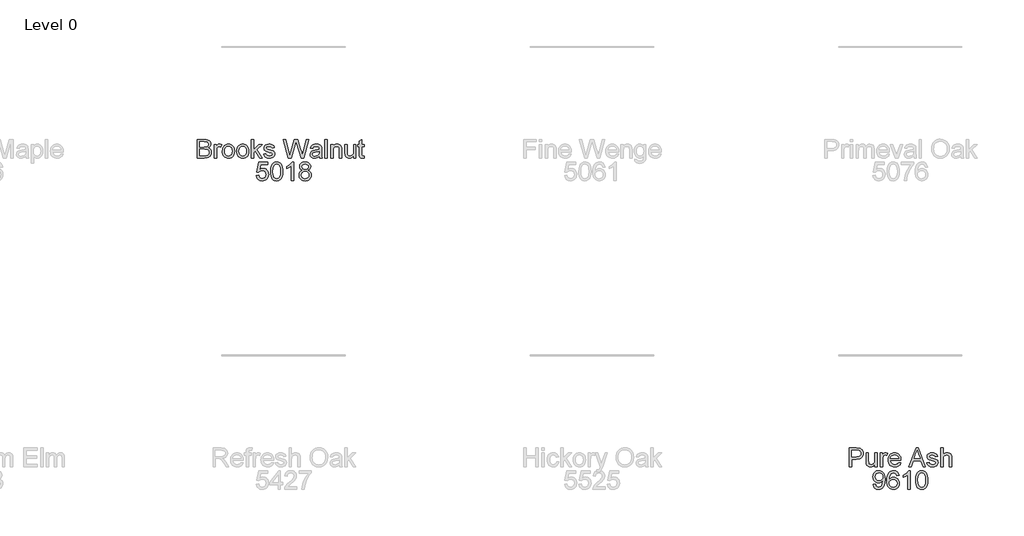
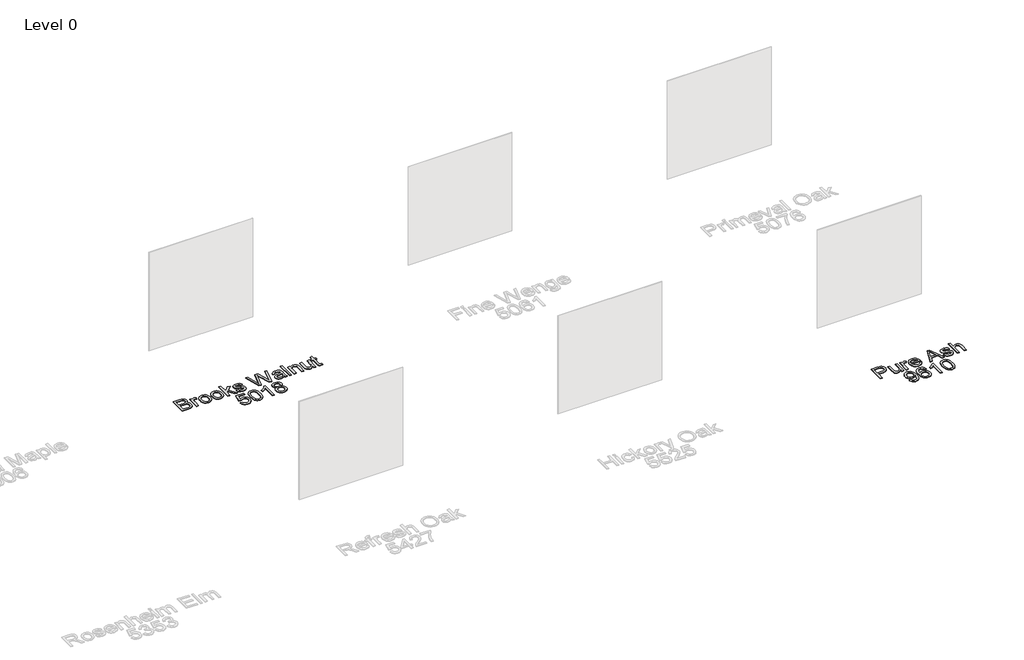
# One storey, part 10 of 16: 2 proxies.
"""IFC4 building model written with IfcOpenShell, lengths in millimetres."""

from ifc_helpers import new_model, si_unit, origin, origin_with_axes, place, context, project, spatial, polyline, outline, extrude, element, save

model = new_model("IFC4")

# Units and contexts
model_context = context("Model", 3, world=origin())
ifc_project = project(units=[si_unit("LENGTHUNIT", "METRE", prefix="MILLI")], contexts=[model_context])

# Site, building, storey
site = spatial("IfcSite", under=ifc_project)
building = spatial("IfcBuilding", under=site)
storey = spatial("IfcBuildingStorey", under=building, Name="Level 0", Elevation=0.0)

# Proxies
placement = place(None, origin())
element("IfcBuildingElementProxy", 1, Name="300mm Arial", ObjectType="300mm Arial", at=placement, inside=storey, context=model_context, shape_type="SweptSolid", body=[
    extrude(outline(polyline([(-849.1982492, -22012.860494), (-849.1982492, -21711.4915635), (-734.1983375, -21711.4915635), (-702.5696829, -21713.7080526), (-677.875604, -21720.3575196), (-658.9480754, -21731.6055116), (-644.6190717, -21747.6175755), (-635.5967657, -21766.4531336), (-632.5893304, -21786.1716086), (-635.1185191, -21804.317388), (-642.7060853, -21821.3779155), (-655.4072112, -21836.3047274), (-673.2770791, -21848.0493601), (-651.9307263, -21859.1961846), (-636.1577858, -21876.1555446), (-626.4181099, -21897.8054), (-623.1715513, -21923.0237108), (-625.3880404, -21944.0389697), (-632.0375074, -21963.5275184), (-641.9611242, -21980.1006023), (-654.0000625, -21992.3694669), (-668.7429335, -22001.253817), (-686.7783483, -22007.6733578), (-735.0812543, -22012.860494), (-849.1982492, -22012.860494)]), holes=[polyline([(-811.5271329, -21833.9226915), (-742.7331998, -21833.9226915), (-702.5604859, -21830.68533), (-688.4981966, -21825.1027207), (-678.3906388, -21816.7426024), (-672.2929947, -21805.7337336), (-670.2604467, -21792.2048733), (-672.155039, -21779.071486), (-677.8388158, -21767.630356), (-687.0542598, -21758.7000206), (-699.5438535, -21753.0990172), (-747.9571241, -21749.1626798), (-811.5271329, -21749.1626798), (-811.5271329, -21833.9226915)]), polyline([(-811.5271329, -21975.1893777), (-734.2719139, -21975.1893777), (-706.3128822, -21973.7178497), (-682.65807, -21965.5140812), (-666.986297, -21948.7754504), (-662.378575, -21936.9480443), (-660.8426676, -21923.3915928), (-662.6452894, -21907.6462434), (-668.0531547, -21894.1081859), (-677.498525, -21883.5223815), (-691.4136614, -21876.6337912), (-711.1229393, -21872.8538037), (-737.9507338, -21871.5938078), (-811.5271329, -21871.5938078), (-811.5271329, -21975.1893777)])]), origin_with_axes(), (0.0, 0.0, 1.0), 10.0),
    extrude(outline(polyline([(-576.082656, -22012.860494), (-576.082656, -21791.5426857), (-543.1204292, -21791.5426857), (-543.1204292, -21824.2841833), (-530.9435351, -21805.3014723), (-519.7231343, -21794.1178596), (-508.4659452, -21788.654812), (-496.1786866, -21786.8337961), (-477.4167048, -21789.7400639), (-458.3604175, -21798.4588672), (-470.9419817, -21832.2304343), (-484.1857336, -21826.4362929), (-497.4294854, -21824.5049125), (-508.6774774, -21826.3627165), (-518.7298529, -21831.9361288), (-526.8508479, -21840.8020848), (-532.3046985, -21852.5375205), (-536.8848294, -21873.5803706), (-538.4115396, -21896.5362071), (-538.4115396, -22012.860494), (-576.082656, -22012.860494)])), origin_with_axes(), (0.0, 0.0, 1.0), 10.0),
    extrude(outline(polyline([(-444.2337489, -21902.2015898), (-442.1966023, -21873.5389839), (-436.0851627, -21848.8403064), (-425.8994299, -21828.1055575), (-411.6394041, -21811.334737), (-397.2828092, -21800.6155754), (-381.4362923, -21792.9590314), (-364.0998533, -21788.3651049), (-345.2734922, -21786.8337961), (-324.4904587, -21788.698498), (-305.6985865, -21794.2926036), (-288.8978757, -21803.6161129), (-274.0883261, -21816.669026), (-262.0011033, -21833.0098843), (-253.3673727, -21852.1972296), (-248.1871344, -21874.2310619), (-246.4603883, -21899.1113811), (-249.5138088, -21937.1687735), (-258.6740705, -21966.1394806), (-273.6744589, -21987.8353213), (-294.2482594, -22004.0681143), (-318.684821, -22014.1940662), (-345.2734922, -22017.5693835), (-366.3600283, -22015.7115794), (-385.3266444, -22010.1381672), (-402.1733405, -22000.8491468), (-416.9001166, -21987.8445183), (-428.8585807, -21971.3450108), (-437.4003408, -21951.5713536), (-442.5253969, -21928.5235466), (-444.2337489, -21902.2015898)]), holes=[polyline([(-406.5626326, -21902.1280134), (-402.2032309, -21936.2214773), (-389.125026, -21960.5108861), (-369.4433393, -21975.0514219), (-345.2734922, -21979.8982672), (-321.2140097, -21975.0238308), (-301.5691112, -21960.4005215), (-288.4909062, -21935.789216), (-284.1315046, -21900.950791), (-288.5184974, -21867.8506085), (-301.6794757, -21843.8922936), (-321.3519654, -21829.3517577), (-345.2734922, -21824.5049125), (-369.4433393, -21829.3333636), (-389.125026, -21843.8187172), (-402.2032309, -21868.0529436), (-406.5626326, -21902.1280134)])]), origin_with_axes(), (0.0, 0.0, 1.0), 10.0),
    extrude(outline(polyline([(-213.4981615, -21902.2015898), (-211.461015, -21873.5389839), (-205.3495753, -21848.8403064), (-195.1638426, -21828.1055575), (-180.9038167, -21811.334737), (-166.5472219, -21800.6155754), (-150.7007049, -21792.9590314), (-133.3642659, -21788.3651049), (-114.5379048, -21786.8337961), (-93.7548713, -21788.698498), (-74.9629992, -21794.2926036), (-58.1622883, -21803.6161129), (-43.3527387, -21816.669026), (-31.2655159, -21833.0098843), (-22.6317854, -21852.1972296), (-17.451547, -21874.2310619), (-15.7248009, -21899.1113811), (-18.7782215, -21937.1687735), (-27.9384831, -21966.1394806), (-42.9388715, -21987.8353213), (-63.5126721, -22004.0681143), (-87.9492336, -22014.1940662), (-114.5379048, -22017.5693835), (-135.6244409, -22015.7115794), (-154.591057, -22010.1381672), (-171.4377531, -22000.8491468), (-186.1645293, -21987.8445183), (-198.1229934, -21971.3450108), (-206.6647534, -21951.5713536), (-211.7898095, -21928.5235466), (-213.4981615, -21902.2015898)]), holes=[polyline([(-175.8270452, -21902.1280134), (-171.4676436, -21936.2214773), (-158.3894386, -21960.5108861), (-138.7077519, -21975.0514219), (-114.5379048, -21979.8982672), (-90.4784223, -21975.0238308), (-70.8335238, -21960.4005215), (-57.7553188, -21935.789216), (-53.3959172, -21900.950791), (-57.78291, -21867.8506085), (-70.9438884, -21843.8922936), (-90.6163781, -21829.3517577), (-114.5379048, -21824.5049125), (-138.7077519, -21829.3333636), (-158.3894386, -21843.8187172), (-171.4676436, -21868.0529436), (-175.8270452, -21902.1280134)])]), origin_with_axes(), (0.0, 0.0, 1.0), 10.0),
    extrude(outline(polyline([(26.6552049, -22012.860494), (26.6552049, -21711.4915635), (64.3263213, -21711.4915635), (64.3263213, -21873.4332178), (148.7920273, -21791.5426857), (200.8841179, -21791.5426857), (115.3883422, -21874.4632874), (205.5930074, -22012.860494), (161.5943208, -22012.860494), (88.3858037, -21900.6564855), (64.3263213, -21923.9802039), (64.3263213, -22012.860494), (26.6552049, -22012.860494)])), origin_with_axes(), (0.0, 0.0, 1.0), 10.0),
    extrude(outline(polyline([(224.4285656, -21946.9360404), (262.0996819, -21942.2271509), (268.0409761, -21958.3403823), (279.5372884, -21970.1861825), (296.6621953, -21977.470246), (319.4892731, -21979.8982672), (342.0404394, -21977.6725811), (357.8961534, -21970.9955229), (367.2771443, -21961.3202265), (370.4041412, -21950.0998256), (367.2587502, -21940.4981055), (357.822577, -21933.1772538), (319.0478147, -21922.4350996), (262.3204111, -21904.0042116), (247.9638162, -21894.7427824), (237.5619528, -21882.4831149), (231.2435795, -21868.0069584), (229.1374551, -21852.0960621), (230.8297123, -21837.5003439), (235.9064838, -21824.0266659), (243.9079172, -21812.2084568), (254.37416, -21802.5791455), (278.3232778, -21791.4323211), (310.7336816, -21786.8337961), (335.2530166, -21788.6824032), (356.5717782, -21794.2282242), (373.7150792, -21802.9286334), (385.7080322, -21814.2410048), (393.6542833, -21829.0022698), (398.6574785, -21848.0493601), (360.9863622, -21852.7582497), (356.2314874, -21840.9032524), (346.8229053, -21831.972917), (332.6686456, -21826.3719136), (313.6767376, -21824.5049125), (292.0452763, -21826.2891401), (277.6243021, -21831.6418232), (269.5125041, -21839.3673451), (266.8085714, -21848.2700893), (271.2967317, -21859.2329728), (285.349824, -21867.5471059), (317.7970159, -21875.5669334), (373.0896798, -21893.2988455), (387.694595, -21901.7785255), (398.7678431, -21913.3852025), (405.7484039, -21928.1556646), (408.0752575, -21946.1267001), (405.3437337, -21964.7047408), (397.1491623, -21982.1791356), (383.8042429, -21997.1795239), (365.6216753, -22008.3355454), (343.6591202, -22015.260924), (318.9742383, -22017.5693835), (280.9904223, -22013.1180114), (253.270514, -21999.763895), (234.7660496, -21977.654187), (224.4285656, -21946.9360404)])), origin_with_axes(), (0.0, 0.0, 1.0), 10.0),
    extrude(outline(polyline([(626.8178919, -22012.860494), (544.6330542, -21711.4915635), (583.4813928, -21711.4915635), (631.1588994, -21909.5592297), (645.8741792, -21970.7012173), (661.6195286, -21916.622564), (721.3635646, -21711.4915635), (777.3552043, -21711.4915635), (820.7652797, -21860.189466), (839.3617146, -21915.3717653), (853.0653189, -21970.7012173), (867.3391403, -21911.3250633), (915.4581053, -21711.4915635), (954.306444, -21711.4915635), (872.0480299, -22012.860494), (831.8017396, -22012.860494), (759.5497157, -21780.359073), (749.4697491, -21747.9118811), (738.1389836, -21786.9809489), (672.2881065, -22012.860494), (626.8178919, -22012.860494)])), origin_with_axes(), (0.0, 0.0, 1.0), 10.0),
    extrude(outline(polyline([(1128.5353569, -21984.6071568), (1110.5367303, -22000.0398064), (1092.0046748, -22010.1381672), (1072.5161261, -22015.7115794), (1051.6480199, -22017.5693835), (1020.1665182, -22013.0996173), (996.9439672, -21999.6903186), (982.6241606, -21979.3280501), (977.8508917, -21953.9993748), (979.6535135, -21938.3827841), (985.0613788, -21924.2009331), (993.403103, -21912.0608273), (1004.0073015, -21902.5694718), (1030.3844406, -21890.2086368), (1062.9787854, -21884.5432541), (1101.4960303, -21878.5835657), (1128.3146277, -21871.5938078), (1128.5353569, -21863.2060983), (1125.9417888, -21846.3938912), (1118.1610846, -21835.3942195), (1100.7602663, -21827.2272392), (1076.5168428, -21824.5049125), (1054.0760411, -21826.3167313), (1038.4042681, -21831.7521878), (1027.7172961, -21841.8045633), (1020.2308975, -21857.4671392), (982.5597812, -21852.7582497), (989.0988837, -21832.156858), (998.8569536, -21815.9700502), (1012.7444989, -21803.590821), (1031.6720276, -21794.4121652), (1054.8210021, -21788.7283884), (1081.3728851, -21786.8337961), (1106.8395162, -21788.5076592), (1127.0270407, -21793.5292485), (1142.2481583, -21801.0800264), (1152.8155686, -21810.3414556), (1159.8237206, -21821.7917827), (1164.3670632, -21835.9092543), (1166.2064732, -21868.8714811), (1166.2064732, -21915.7396473), (1168.1194596, -21981.1858542), (1175.6242523, -22012.860494), (1137.953136, -22012.860494), (1128.5353569, -21984.6071568)]), holes=[polyline([(1128.5353569, -21909.2649241), (1067.7612513, -21920.8164188), (1035.3508475, -21926.9232599), (1020.6723559, -21936.8560738), (1015.522008, -21951.3506244), (1018.3271082, -21962.5526311), (1026.7424088, -21971.7312869), (1040.5839689, -21977.8565221), (1059.6678474, -21979.8982672), (1079.9013571, -21977.64499), (1097.7804221, -21970.8851583), (1112.2749727, -21960.9247533), (1122.3549394, -21949.069756), (1126.8247056, -21936.8560738), (1128.3146277, -21919.933502), (1128.5353569, -21909.2649241)])]), origin_with_axes(), (0.0, 0.0, 1.0), 10.0),
    extrude(outline(polyline([(1218.0042581, -22012.860494), (1218.0042581, -21711.4915635), (1255.6753744, -21711.4915635), (1255.6753744, -22012.860494), (1218.0042581, -22012.860494)])), origin_with_axes(), (0.0, 0.0, 1.0), 10.0),
    extrude(outline(polyline([(1312.1820489, -22012.860494), (1312.1820489, -21791.5426857), (1349.8531652, -21791.5426857), (1349.8531652, -21822.4447733), (1362.9405672, -21806.8649708), (1378.6583254, -21795.7365404), (1397.0064399, -21789.0594822), (1417.9849107, -21786.8337961), (1436.5537544, -21788.6272209), (1453.5590996, -21794.0074951), (1467.7409506, -21802.303234), (1477.8393113, -21812.8430532), (1489.1332886, -21840.5445674), (1491.1198513, -21876.964885), (1491.1198513, -22012.860494), (1453.448735, -22012.860494), (1453.448735, -21882.0416565), (1449.1077275, -21848.7115477), (1443.1020539, -21838.7879309), (1433.7670483, -21831.0900002), (1421.8016864, -21826.1511844), (1407.904944, -21824.5049125), (1385.8412214, -21828.2021265), (1367.0332544, -21839.2937687), (1359.5169654, -21848.3482643), (1354.1481875, -21860.7228949), (1349.8531652, -21895.4325611), (1349.8531652, -22012.860494), (1312.1820489, -22012.860494)])), origin_with_axes(), (0.0, 0.0, 1.0), 10.0),
    extrude(outline(polyline([(1684.1843224, -22012.860494), (1684.1843224, -21974.8214957), (1670.5542945, -21993.5236966), (1654.6801864, -22006.8824116), (1636.5619981, -22014.8976405), (1616.1997297, -22017.5693835), (1597.8516152, -22015.6931853), (1580.7726936, -22010.0645908), (1566.4436899, -22001.6033049), (1556.3453291, -21991.2290327), (1545.1249282, -21963.4907302), (1542.9176363, -21928.4683643), (1542.9176363, -21791.5426857), (1580.5887526, -21791.5426857), (1580.5887526, -21910.7364521), (1582.8696209, -21949.1433324), (1588.3602597, -21961.9548229), (1597.7688417, -21971.6944987), (1610.4699676, -21977.8473251), (1625.838238, -21979.8982672), (1642.0894251, -21977.8013398), (1657.2921486, -21971.5105577), (1669.8277276, -21961.605335), (1678.0774813, -21948.6650858), (1682.6576121, -21930.9423707), (1684.1843224, -21906.6897502), (1684.1843224, -21791.5426857), (1721.8554387, -21791.5426857), (1721.8554387, -22012.860494), (1684.1843224, -22012.860494)])), origin_with_axes(), (0.0, 0.0, 1.0), 10.0),
    extrude(outline(polyline([(1853.7043458, -21981.4433716), (1858.4132353, -22013.96414), (1830.2334745, -22017.5693835), (1812.1520744, -22016.005885), (1798.6691993, -22011.3153896), (1789.1410556, -22004.0865084), (1782.9238499, -21994.9078526), (1779.5025474, -21979.1441091), (1778.3621132, -21952.1599648), (1778.3621132, -21829.213802), (1750.1087759, -21829.213802), (1750.1087759, -21791.5426857), (1778.3621132, -21791.5426857), (1778.3621132, -21737.758338), (1816.0332295, -21715.6118419), (1816.0332295, -21791.5426857), (1853.7043458, -21791.5426857), (1853.7043458, -21829.213802), (1816.0332295, -21829.213802), (1816.0332295, -21951.0563188), (1818.0197923, -21970.4804881), (1824.4577272, -21977.3598814), (1837.2968088, -21979.8982672), (1853.7043458, -21981.4433716)])), origin_with_axes(), (0.0, 0.0, 1.0), 10.0),
    extrude(outline(polyline([(106.7063271, -22298.7338254), (144.3774434, -22294.0249358), (151.2936249, -22316.6404815), (163.3601544, -22332.8364863), (180.5218494, -22342.5761621), (202.7235278, -22345.8227207), (229.7260663, -22341.3069693), (249.959576, -22327.7597148), (262.5963226, -22306.7444558), (266.8085714, -22279.8246908), (262.863037, -22254.4776213), (251.0264338, -22235.0902402), (231.2067913, -22222.7845875), (203.312139, -22218.6827032), (185.0376009, -22220.3197781), (170.2395477, -22225.2310027), (149.0863329, -22242.2271509), (111.4152166, -22237.5182614), (144.3774434, -22082.1249066), (290.3530191, -22082.1249066), (290.3530191, -22119.7960229), (174.8380726, -22119.7960229), (158.7248412, -22202.790201), (185.6354092, -22186.4562404), (213.8335641, -22181.0115869), (232.1793793, -22182.6992456), (249.030674, -22187.7622215), (264.387448, -22196.2005148), (278.2497014, -22208.0141254), (289.7253204, -22222.4810848), (297.9221911, -22238.8794248), (302.8403136, -22257.2091452), (304.4796877, -22277.470246), (298.5751817, -22315.1413624), (291.1945492, -22331.9351754), (280.8616636, -22347.3678251), (265.2082847, -22363.1729553), (246.9429437, -22374.4623341), (226.0656404, -22381.2359613), (202.576375, -22383.4938371), (165.5766434, -22377.6904986), (149.8979726, -22370.4363255), (136.1000985, -22360.2804832), (124.619881, -22347.7288093), (115.8941799, -22333.2871418), (106.7063271, -22298.7338254)])), origin_with_axes(), (0.0, 0.0, 1.0), 10.0),
    extrude(outline(polyline([(337.4419145, -22230.5285035), (340.2102265, -22182.2899768), (348.5151625, -22143.8187172), (362.2739491, -22114.5261133), (381.4038129, -22093.8235541), (406.0427095, -22081.5179013), (436.3285948, -22077.4160171), (459.5419487, -22079.8440382), (480.3272814, -22087.1281017), (497.7097057, -22098.983099), (510.7143342, -22115.1239216), (520.5367835, -22135.4126136), (528.37267, -22159.7112194), (533.5046238, -22190.5673217), (535.2152751, -22230.5285035), (532.4745542, -22278.4911186), (524.2523916, -22316.8704077), (510.5763785, -22346.1906027), (491.4741059, -22366.9759355), (466.7800269, -22379.3643617), (436.3285948, -22383.4938371), (415.5800502, -22381.7004123), (397.1859505, -22376.3201381), (381.1462955, -22367.3530145), (367.4610853, -22354.7990414), (354.327698, -22332.1053209), (344.9467072, -22303.828991), (339.3181126, -22269.9700519), (337.4419145, -22230.5285035)]), holes=[polyline([(375.1130308, -22230.4549271), (379.5276147, -22289.7115194), (385.0458446, -22309.9795181), (392.7713665, -22324.0073184), (412.4898415, -22340.3688702), (436.3285948, -22345.8227207), (460.1673481, -22340.3504761), (479.885823, -22323.933742), (487.6113449, -22309.8829491), (493.1295748, -22289.6195489), (497.5441588, -22230.4549271), (493.2767276, -22172.5319069), (487.9424387, -22152.3305869), (480.4744342, -22137.9693935), (460.7927475, -22120.8076984), (435.8871364, -22115.0871334), (412.3059005, -22120.1271167), (393.3599777, -22135.2470667), (385.3769384, -22150.8820515), (379.6747675, -22171.9616898), (375.1130308, -22230.4549271)])]), origin_with_axes(), (0.0, 0.0, 1.0), 10.0),
    extrude(outline(polyline([(709.444188, -22378.7849475), (671.7730717, -22378.7849475), (671.7730717, -22143.9290818), (636.0885182, -22169.3497277), (596.4308391, -22188.3692268), (596.4308391, -22152.7582497), (626.0177485, -22136.6634124), (651.6499266, -22117.5151545), (671.8558451, -22097.1528861), (685.1639763, -22077.4160171), (709.444188, -22077.4160171), (709.444188, -22378.7849475)])), origin_with_axes(), (0.0, 0.0, 1.0), 10.0),
    extrude(outline(polyline([(853.8010829, -22212.7965913), (833.6319525, -22202.8637774), (819.4776928, -22189.3992964), (811.1175744, -22172.6790597), (808.3308683, -22152.9789789), (809.8483815, -22137.6153071), (814.4009212, -22123.5300252), (821.9884874, -22110.7231332), (832.61108, -22099.1946312), (845.7582628, -22089.6664875), (860.9195995, -22082.8606706), (897.2847347, -22077.4160171), (933.8705992, -22082.9894293), (949.1974828, -22089.9561946), (962.5470007, -22099.709666), (973.3627313, -22111.4634957), (981.0882532, -22124.4313361), (985.7235664, -22138.613187), (987.2686708, -22154.0090485), (984.5187528, -22173.0745329), (976.2689991, -22189.509661), (962.427439, -22202.8913686), (942.9021021, -22212.7965913), (966.0878649, -22224.7435591), (982.9644514, -22242.3375155), (993.2559502, -22264.732332), (996.6864498, -22291.0818799), (994.9849956, -22309.8714528), (989.8806329, -22327.0975272), (981.3733618, -22342.7601031), (969.4631822, -22356.8591806), (954.7754935, -22368.5118428), (937.9356952, -22376.8351729), (918.9437872, -22381.829171), (897.7997695, -22383.4938371), (876.6557519, -22381.8222732), (857.6638439, -22376.8075818), (840.8240455, -22368.4497627), (826.1363569, -22356.748816), (814.2261773, -22342.5508703), (805.7189061, -22326.702054), (800.6145434, -22309.2023674), (798.9130892, -22290.0518103), (802.4815446, -22262.6813898), (813.1869106, -22240.1670117), (830.4773644, -22223.2812282), (853.8010829, -22212.7965913)]), holes=[polyline([(846.0019846, -22154.0826249), (849.3405137, -22170.52695), (859.356101, -22183.6603373), (875.754441, -22192.268776), (898.2412279, -22195.1382555), (920.203783, -22192.2871701), (936.3538026, -22183.7339137), (946.2866165, -22171.0419848), (949.5975544, -22155.774882), (946.1762519, -22139.9283651), (935.9123442, -22126.822569), (919.5415954, -22118.0209923), (897.7997695, -22115.0871334), (875.9199879, -22117.9566129), (859.5768302, -22126.5650516), (849.395696, -22139.1834041), (846.0019846, -22154.0826249)]), polyline([(836.5842055, -22288.7274351), (842.8749876, -22317.0911369), (851.5845939, -22329.2588339), (865.1318484, -22338.317928), (881.3554443, -22343.9465226), (898.0940751, -22345.8227207), (923.7354502, -22341.8771864), (942.9756785, -22330.0405832), (955.0054198, -22312.1155329), (959.0153335, -22289.9046575), (954.8766611, -22267.316703), (942.4606437, -22248.9961796), (922.778957, -22236.8560738), (896.8432763, -22232.8093718), (871.5605862, -22236.8008915), (852.5134959, -22248.7754504), (840.5665281, -22266.7464859), (836.5842055, -22288.7274351)])]), origin_with_axes(), (0.0, 0.0, 1.0), 10.0),
])
element("IfcBuildingElementProxy", 2, Name="300mm Arial", ObjectType="300mm Arial", at=placement, inside=storey, context=model_context, shape_type="SweptSolid", body=[
    extrude(outline(polyline([(9722.9318297, -27022.860494), (9722.9318297, -26721.4915635), (9834.6208035, -26721.4915635), (9879.6495597, -26724.3610431), (9899.7267196, -26729.7229232), (9916.2538182, -26738.4509235), (9929.5619494, -26750.9405172), (9939.9822069, -26767.5871775), (9946.7144474, -26787.222879), (9948.9585276, -26808.6795964), (9947.4433136, -26827.1794622), (9942.8976717, -26844.198603), (9935.3216019, -26859.7370188), (9924.7151041, -26873.7947095), (9910.1538749, -26885.4473717), (9890.7136107, -26893.7707019), (9866.3943115, -26898.7647), (9837.1959774, -26900.429366), (9760.602946, -26900.429366), (9760.602946, -27022.860494), (9722.9318297, -27022.860494)]), holes=[polyline([(9760.602946, -26862.7582497), (9839.4032694, -26862.7582497), (9872.8069546, -26859.3001589), (9894.8798743, -26848.9258867), (9907.185527, -26832.2792264), (9911.2874113, -26810.0039716), (9908.8685871, -26793.0813998), (9901.6121148, -26778.8075784), (9890.4193051, -26768.0654241), (9876.1914689, -26761.7378538), (9838.5203526, -26759.1626798), (9760.602946, -26759.1626798), (9760.602946, -26862.7582497)])]), origin_with_axes(), (0.0, 0.0, 1.0), 10.0),
    extrude(outline(polyline([(10137.3141091, -27022.860494), (10137.3141091, -26984.8214957), (10123.6840812, -27003.5236966), (10107.8099731, -27016.8824116), (10089.6917848, -27024.8976405), (10069.3295164, -27027.5693835), (10050.9814019, -27025.6931853), (10033.9024803, -27020.0645908), (10019.5734765, -27011.6033049), (10009.4751158, -27001.2290327), (9998.2547149, -26973.4907302), (9996.0474229, -26938.4683643), (9996.0474229, -26801.5426857), (10033.7185393, -26801.5426857), (10033.7185393, -26920.7364521), (10035.9994076, -26959.1433324), (10041.4900464, -26971.9548229), (10050.8986284, -26981.6944987), (10063.5997543, -26987.8473251), (10078.9680247, -26989.8982672), (10095.2192118, -26987.8013398), (10110.4219352, -26981.5105577), (10122.9575142, -26971.605335), (10131.207268, -26958.6650858), (10135.7873988, -26940.9423707), (10137.3141091, -26916.6897502), (10137.3141091, -26801.5426857), (10174.9852254, -26801.5426857), (10174.9852254, -27022.860494), (10137.3141091, -27022.860494)])), origin_with_axes(), (0.0, 0.0, 1.0), 10.0),
    extrude(outline(polyline([(10226.7830103, -27022.860494), (10226.7830103, -26801.5426857), (10259.7452371, -26801.5426857), (10259.7452371, -26834.2841833), (10271.9221311, -26815.3014723), (10283.142532, -26804.1178596), (10294.399721, -26798.654812), (10306.6869797, -26796.8337961), (10325.4489614, -26799.7400639), (10344.5052488, -26808.4588672), (10331.9236845, -26842.2304343), (10318.6799327, -26836.4362929), (10305.4361809, -26834.5049125), (10294.1881889, -26836.3627165), (10284.1358134, -26841.9361288), (10276.0148183, -26850.8020848), (10270.5609677, -26862.5375205), (10265.9808369, -26883.5803706), (10264.4541266, -26906.5362071), (10264.4541266, -27022.860494), (10226.7830103, -27022.860494)])), origin_with_axes(), (0.0, 0.0, 1.0), 10.0),
    extrude(outline(polyline([(10523.0015928, -26956.9360404), (10559.9369452, -26961.64493), (10546.628814, -26989.4752029), (10525.3928258, -27010.2789297), (10496.7072272, -27023.2467701), (10461.0502649, -27027.5693835), (10437.6759626, -27025.7046817), (10416.8492431, -27020.1105761), (10398.5701065, -27010.7870668), (10382.8385527, -26997.7341537), (10370.1880106, -26981.3151204), (10361.1519091, -26961.8932503), (10355.7302482, -26939.4685435), (10353.9230279, -26914.0409998), (10355.7486423, -26887.7512327), (10361.2254855, -26864.5792656), (10370.3535575, -26844.5250983), (10383.1328583, -26827.5887309), (10398.8230254, -26814.133447), (10416.6836962, -26804.5225298), (10436.7148709, -26798.7559796), (10458.9165493, -26796.8337961), (10480.4031571, -26798.751381), (10499.8342242, -26804.5041357), (10517.2097507, -26814.0920602), (10532.5297365, -26827.5151545), (10545.0354251, -26844.4147337), (10553.9680598, -26864.4321128), (10559.3276406, -26887.5672917), (10561.1141675, -26913.8202706), (10560.8934383, -26923.9738137), (10391.5941442, -26923.9738137), (10398.1148525, -26952.1719686), (10413.2623937, -26972.902119), (10435.1237812, -26985.6492302), (10461.7860288, -26989.8982672), (10481.8355976, -26987.9300985), (10498.7213812, -26982.0255925), (10512.4433796, -26971.8168672), (10523.0015928, -26956.9360404)]), holes=[polyline([(10391.5941442, -26886.3026974), (10523.4430512, -26886.3026974), (10518.3478856, -26866.4002814), (10508.3598894, -26852.1632482), (10486.3973343, -26838.9194964), (10458.7693965, -26834.5049125), (10433.3763418, -26838.0273826), (10412.3794769, -26848.5947929), (10397.7837587, -26865.0667092), (10391.5941442, -26886.3026974)])]), origin_with_axes(), (0.0, 0.0, 1.0), 10.0),
    extrude(outline(polyline([(10686.1204695, -27022.860494), (10806.4178819, -26721.4915635), (10838.4971919, -26721.4915635), (10958.7946043, -27022.860494), (10918.9897724, -27022.860494), (10884.4824413, -26928.6827032), (10760.3590561, -26928.6827032), (10725.9253014, -27022.860494), (10686.1204695, -27022.860494)]), holes=[polyline([(10774.1914191, -26891.0115869), (10870.7236547, -26891.0115869), (10843.5739634, -26816.9201531), (10822.4575369, -26759.1626798), (10803.6955552, -26810.44543), (10774.1914191, -26891.0115869)])]), origin_with_axes(), (0.0, 0.0, 1.0), 10.0),
    extrude(outline(polyline([(10980.2053364, -26956.9360404), (11017.8764527, -26952.2271509), (11023.817747, -26968.3403823), (11035.3140593, -26980.1861825), (11052.4389662, -26987.470246), (11075.266044, -26989.8982672), (11097.8172103, -26987.6725811), (11113.6729243, -26980.9955229), (11123.0539152, -26971.3202265), (11126.1809121, -26960.0998256), (11123.0355211, -26950.4981055), (11113.5993479, -26943.1772538), (11074.8245856, -26932.4350996), (11018.0971819, -26914.0042116), (11003.7405871, -26904.7427824), (10993.3387237, -26892.4831149), (10987.0203504, -26878.0069584), (10984.914226, -26862.0960621), (10986.6064832, -26847.5003439), (10991.6832547, -26834.0266659), (10999.6846881, -26822.2084568), (11010.1509309, -26812.5791455), (11034.1000487, -26801.4323211), (11066.5104525, -26796.8337961), (11091.0297875, -26798.6824032), (11112.3485491, -26804.2282242), (11129.4918501, -26812.9286334), (11141.4848031, -26824.2410048), (11149.4310542, -26839.0022698), (11154.4342494, -26858.0493601), (11116.7631331, -26862.7582497), (11112.0082583, -26850.9032524), (11102.5996762, -26841.972917), (11088.4454165, -26836.3719136), (11069.4535085, -26834.5049125), (11047.8220472, -26836.2891401), (11033.4010729, -26841.6418232), (11025.289275, -26849.3673451), (11022.5853423, -26858.2700893), (11027.0735026, -26869.2329728), (11041.1265948, -26877.5471059), (11073.5737868, -26885.5669334), (11128.8664507, -26903.2988455), (11143.4713659, -26911.7785255), (11154.544614, -26923.3852025), (11161.5251748, -26938.1556646), (11163.8520284, -26956.1267001), (11161.1205046, -26974.7047408), (11152.9259332, -26992.1791356), (11139.5810138, -27007.1795239), (11121.3984462, -27018.3355454), (11099.4358911, -27025.260924), (11074.7510092, -27027.5693835), (11036.7671932, -27023.1180114), (11009.0472849, -27009.763895), (10990.5428205, -26987.654187), (10980.2053364, -26956.9360404)])), origin_with_axes(), (0.0, 0.0, 1.0), 10.0),
    extrude(outline(polyline([(11206.2320343, -27022.860494), (11206.2320343, -26721.4915635), (11243.9031506, -26721.4915635), (11243.9031506, -26832.2976205), (11257.7401121, -26816.7821973), (11273.2785279, -26805.6997522), (11290.5183979, -26799.0502852), (11309.4597221, -26796.8337961), (11332.2132235, -26799.2526203), (11351.7661516, -26806.5090926), (11367.1620131, -26818.0329961), (11377.4443148, -26833.2541137), (11383.2384563, -26854.1682051), (11385.1698367, -26882.7710302), (11385.1698367, -27022.860494), (11347.4987204, -27022.860494), (11347.4987204, -26886.6705794), (11344.5004822, -26863.0893435), (11335.5057674, -26846.9393239), (11321.0112168, -26837.6135153), (11301.513471, -26834.5049125), (11285.5933777, -26836.6018398), (11270.6481716, -26842.8926219), (11258.2689425, -26852.7702535), (11250.0467799, -26865.6277292), (11245.4390579, -26882.7158479), (11243.9031506, -26905.2854083), (11243.9031506, -27022.860494), (11206.2320343, -27022.860494)])), origin_with_axes(), (0.0, 0.0, 1.0), 10.0),
    extrude(outline(polyline([(10111.4152166, -27313.4427149), (10149.0863329, -27308.7338254), (10155.5242679, -27330.1169663), (10166.0089047, -27344.6758963), (10180.2827261, -27353.0360146), (10198.0882147, -27355.8227207), (10214.0634903, -27354.029296), (10228.5856321, -27348.6490218), (10240.6521615, -27340.2705094), (10249.2606002, -27329.4823699), (10261.5846471, -27296.7408723), (10267.0293006, -27253.0364913), (10266.8085714, -27245.6788514), (10253.7579576, -27261.6081418), (10236.679036, -27274.2264942), (10216.8042112, -27282.4486568), (10195.3658879, -27285.1893777), (10177.4707281, -27283.5155146), (10161.0149066, -27278.4939254), (10145.9984234, -27270.12461), (10132.4212786, -27258.4075684), (10121.1709873, -27243.9544045), (10113.135065, -27227.3767221), (10108.3135116, -27208.6745212), (10106.7063271, -27187.8478018), (10108.3916865, -27166.326705), (10113.4477647, -27147.0129003), (10121.8745616, -27129.9063875), (10133.6720773, -27115.0071667), (10148.0079788, -27102.9360387), (10164.0499331, -27094.3138045), (10181.7979401, -27089.1404639), (10201.2519999, -27087.4160171), (10229.3489872, -27091.3523544), (10254.925983, -27103.1613665), (10276.318321, -27122.254442), (10291.8613353, -27148.0429699), (10301.3250996, -27183.6907352), (10304.4796877, -27232.3615232), (10301.3342966, -27283.96617), (10291.8981235, -27323.8537754), (10276.2539416, -27353.8269609), (10254.4845246, -27375.6883485), (10227.5279714, -27389.0424649), (10196.3223811, -27393.4938371), (10164.1143124, -27388.2423216), (10138.4177551, -27372.4877751), (10120.4467196, -27347.2234791), (10111.4152166, -27313.4427149)]), holes=[polyline([(10266.8085714, -27186.964885), (10262.7434754, -27161.4338745), (10250.5481872, -27141.788976), (10231.6206586, -27129.262594), (10207.358841, -27125.0871334), (10182.1957125, -27129.5844908), (10162.0357792, -27143.0765629), (10148.7920273, -27163.7239399), (10144.3774434, -27189.6872117), (10148.552904, -27212.964945), (10161.079286, -27231.4418182), (10180.7425786, -27243.4991506), (10206.3287714, -27247.5182614), (10230.3974509, -27243.4991506), (10249.775635, -27231.4418182), (10262.5503373, -27212.2843633), (10266.8085714, -27186.964885)])]), origin_with_axes(), (0.0, 0.0, 1.0), 10.0),
    extrude(outline(polyline([(10530.5063855, -27167.4671392), (10492.8352692, -27172.1760288), (10486.7652163, -27153.5060175), (10478.5614478, -27140.7589064), (10461.4733291, -27129.0050766), (10440.8167551, -27125.0871334), (10423.3055721, -27127.3680017), (10406.8244588, -27134.2106069), (10392.670199, -27148.622384), (10381.1095073, -27168.4604206), (10373.301212, -27196.5206198), (10370.4041412, -27235.5988847), (10385.5148942, -27217.9681401), (10403.6238854, -27205.5429257), (10423.7194394, -27198.1760888), (10444.7898807, -27195.7204764), (10462.8896748, -27197.3989381), (10479.5915174, -27202.4343229), (10494.8954084, -27210.8266309), (10508.8013478, -27222.5758621), (10520.357441, -27236.9830407), (10528.6117933, -27253.349191), (10533.5644046, -27271.6743129), (10535.2152751, -27291.9584064), (10532.1066722, -27318.9333537), (10522.7808636, -27343.9401323), (10508.0104015, -27365.1485293), (10488.5678381, -27380.7283318), (10465.3360901, -27390.3024607), (10439.1980743, -27393.4938371), (10416.7411778, -27391.3785156), (10396.4593835, -27385.0325512), (10378.3526916, -27374.4559438), (10362.4211019, -27359.6486935), (10349.4325683, -27339.9854009), (10340.1550442, -27314.8406665), (10334.5885297, -27284.2144904), (10332.7330249, -27248.1068726), (10334.7931641, -27207.6260575), (10340.9735816, -27173.0773396), (10351.2742775, -27144.4607189), (10365.6952517, -27121.7761954), (10381.325638, -27106.7436174), (10399.4484248, -27096.0060617), (10420.0636121, -27089.5635282), (10443.1711999, -27087.4160171), (10476.2253972, -27092.7319119), (10502.6945067, -27108.6795964), (10521.2357593, -27134.0082718), (10530.5063855, -27167.4671392)]), holes=[polyline([(10370.4041412, -27291.3697952), (10372.5838421, -27308.0624407), (10379.1229445, -27324.0009282), (10389.2764876, -27337.7045325), (10402.2995102, -27347.6925287), (10418.0172685, -27353.7901727), (10436.2550184, -27355.8227207), (10461.1146442, -27351.6104719), (10480.6583752, -27338.9737254), (10493.3227129, -27319.1080976), (10497.5441588, -27293.2092052), (10493.3778952, -27268.3495793), (10480.8791044, -27249.3944595), (10461.0042796, -27237.3923095), (10434.709914, -27233.3915928), (10409.8870764, -27237.3923095), (10389.1293348, -27249.3944595), (10375.0854396, -27267.8897269), (10370.4041412, -27291.3697952)])]), origin_with_axes(), (0.0, 0.0, 1.0), 10.0),
    extrude(outline(polyline([(10709.444188, -27388.7849475), (10671.7730717, -27388.7849475), (10671.7730717, -27153.9290818), (10636.0885182, -27179.3497277), (10596.4308391, -27198.3692268), (10596.4308391, -27162.7582497), (10626.0177485, -27146.6634124), (10651.6499266, -27127.5151545), (10671.8558451, -27107.1528861), (10685.1639763, -27087.4160171), (10709.444188, -27087.4160171), (10709.444188, -27388.7849475)])), origin_with_axes(), (0.0, 0.0, 1.0), 10.0),
    extrude(outline(polyline([(10798.9130892, -27240.5285035), (10801.6814012, -27192.2899768), (10809.9863373, -27153.8187172), (10823.7451239, -27124.5261133), (10842.8749876, -27103.8235541), (10867.5138843, -27091.5179013), (10897.7997695, -27087.4160171), (10921.0131234, -27089.8440382), (10941.7984561, -27097.1281017), (10959.1808804, -27108.983099), (10972.1855089, -27125.1239216), (10982.0079582, -27145.4126136), (10989.8438447, -27169.7112194), (10994.9757986, -27200.5673217), (10996.6864498, -27240.5285035), (10993.945729, -27288.4911186), (10985.7235664, -27326.8704077), (10972.0475532, -27356.1906027), (10952.9452806, -27376.9759355), (10928.2512017, -27389.3643617), (10897.7997695, -27393.4938371), (10877.051225, -27391.7004123), (10858.6571252, -27386.3201381), (10842.6174702, -27377.3530145), (10828.93226, -27364.7990414), (10815.7988728, -27342.1053209), (10806.4178819, -27313.828991), (10800.7892874, -27279.9700519), (10798.9130892, -27240.5285035)]), holes=[polyline([(10836.5842055, -27240.4549271), (10840.9987895, -27299.7115194), (10846.5170194, -27319.9795181), (10854.2425413, -27334.0073184), (10873.9610162, -27350.3688702), (10897.7997695, -27355.8227207), (10921.6385228, -27350.3504761), (10941.3569978, -27333.933742), (10949.0825197, -27319.8829491), (10954.6007496, -27299.6195489), (10959.0153335, -27240.4549271), (10954.7479024, -27182.5319069), (10949.4136134, -27162.3305869), (10941.9456089, -27147.9693935), (10922.2639222, -27130.8076984), (10897.3583111, -27125.0871334), (10873.7770752, -27130.1271167), (10854.8311525, -27145.2470667), (10846.8481132, -27160.8820515), (10841.1459423, -27181.9616898), (10836.5842055, -27240.4549271)])]), origin_with_axes(), (0.0, 0.0, 1.0), 10.0),
])

save(model, "model.ifc")
